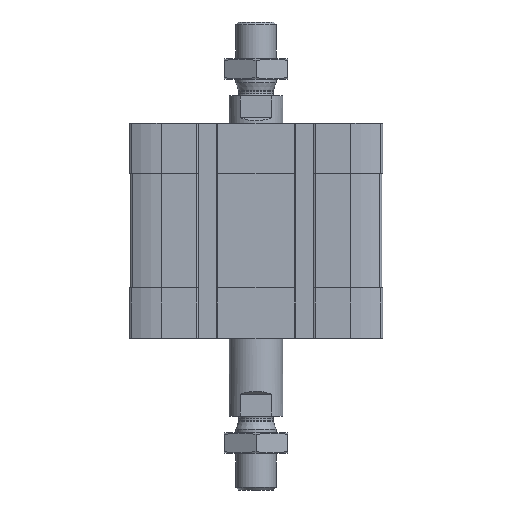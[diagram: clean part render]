
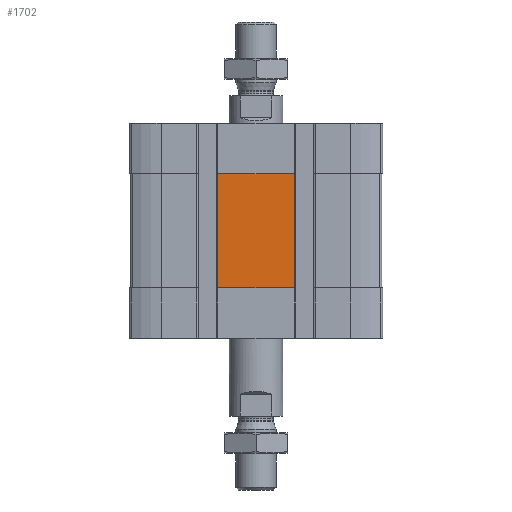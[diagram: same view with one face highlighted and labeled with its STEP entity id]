
A CAD part, front view. The second image highlights one B-rep face of the part: STEP entity #1702.
In plain terms, the highlighted planar face has unit normal (0, -1, 0).
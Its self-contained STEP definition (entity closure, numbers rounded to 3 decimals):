
#258 = DIRECTION ( 'NONE',  ( 0., 0., 1. ) ) ;
#1328 = VERTEX_POINT ( 'NONE', #3321 ) ;
#1472 = DIRECTION ( 'NONE',  ( 1., 0., 0. ) ) ;
#1702 = ADVANCED_FACE ( 'NONE', ( #2080 ), #16660, .T. ) ;
#1999 = VECTOR ( 'NONE', #10620, 1000. ) ;
#2080 = FACE_OUTER_BOUND ( 'NONE', #2687, .T. ) ;
#2687 = EDGE_LOOP ( 'NONE', ( #3543, #12702, #13821, #14082 ) ) ;
#2767 = CARTESIAN_POINT ( 'NONE',  ( 11.4, -37.5, -49. ) ) ;
#2775 = EDGE_CURVE ( 'NONE', #17068, #3172, #16145, .T. ) ;
#2776 = EDGE_CURVE ( 'NONE', #1328, #17068, #2868, .T. ) ;
#2868 = LINE ( 'NONE', #8453, #3497 ) ;
#3132 = DIRECTION ( 'NONE',  ( 1., 0., 0. ) ) ;
#3172 = VERTEX_POINT ( 'NONE', #7031 ) ;
#3215 = CARTESIAN_POINT ( 'NONE',  ( -11.4, -37.5, -49. ) ) ;
#3321 = CARTESIAN_POINT ( 'NONE',  ( -11.4, -37.5, -49. ) ) ;
#3497 = VECTOR ( 'NONE', #258, 1000. ) ;
#3543 = ORIENTED_EDGE ( 'NONE', *, *, #2775, .F. ) ;
#5402 = LINE ( 'NONE', #17258, #11327 ) ;
#5780 = EDGE_CURVE ( 'NONE', #13307, #3172, #6694, .T. ) ;
#6234 = AXIS2_PLACEMENT_3D ( 'NONE', #3215, #15265, #16484 ) ;
#6694 = LINE ( 'NONE', #2767, #1999 ) ;
#7031 = CARTESIAN_POINT ( 'NONE',  ( 11.4, -37.5, -15. ) ) ;
#8356 = CARTESIAN_POINT ( 'NONE',  ( -11.4, -37.5, -15. ) ) ;
#8453 = CARTESIAN_POINT ( 'NONE',  ( -11.4, -37.5, -49. ) ) ;
#9380 = CARTESIAN_POINT ( 'NONE',  ( -11.4, -37.5, -15. ) ) ;
#10227 = EDGE_CURVE ( 'NONE', #1328, #13307, #5402, .T. ) ;
#10620 = DIRECTION ( 'NONE',  ( 0., 0., 1. ) ) ;
#11327 = VECTOR ( 'NONE', #1472, 1000. ) ;
#12702 = ORIENTED_EDGE ( 'NONE', *, *, #2776, .F. ) ;
#13307 = VERTEX_POINT ( 'NONE', #16619 ) ;
#13821 = ORIENTED_EDGE ( 'NONE', *, *, #10227, .T. ) ;
#14082 = ORIENTED_EDGE ( 'NONE', *, *, #5780, .T. ) ;
#15265 = DIRECTION ( 'NONE',  ( 0., -1., 0. ) ) ;
#16046 = VECTOR ( 'NONE', #3132, 1000. ) ;
#16145 = LINE ( 'NONE', #8356, #16046 ) ;
#16484 = DIRECTION ( 'NONE',  ( 0., 0., -1. ) ) ;
#16619 = CARTESIAN_POINT ( 'NONE',  ( 11.4, -37.5, -49. ) ) ;
#16660 = PLANE ( 'NONE',  #6234 ) ;
#17068 = VERTEX_POINT ( 'NONE', #9380 ) ;
#17258 = CARTESIAN_POINT ( 'NONE',  ( -11.4, -37.5, -49. ) ) ;
